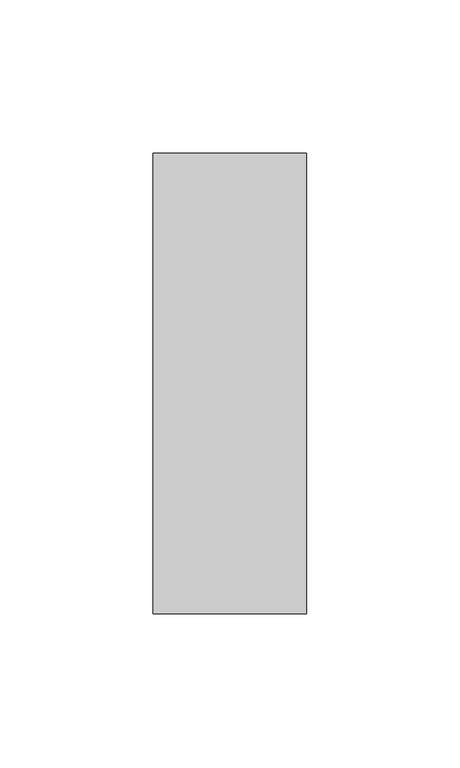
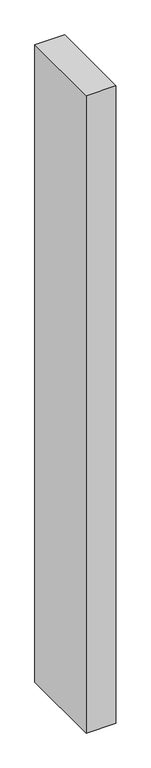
"""IFC4 building model written with IfcOpenShell, lengths in millimetres: member geometry, Прямоугольный импост : 50 x 150 мм."""

from ifc_helpers import new_model, si_unit, frame, origin, place, context, project, spatial, polyline, outline, extrude, source, transform, mapped, element, save


def member_69ce679c(model_context):
    return source(origin(), model_context, "Body", "SweptSolid", [
        extrude(outline(polyline([(25.0, 75.0), (25.0, -75.0), (-25.0, -75.0), (-25.0, 75.0), (25.0, 75.0)])), frame((0.0, 0.0, -1135.4166536), z_axis=(0.0, 0.0, 1.0), x_axis=(1.0, 0.0, 0.0)), (0.0, 0.0, 1.0), 1135.4166536),
    ])


if __name__ == "__main__":
    model = new_model("IFC4")
    model_context = context("Model", 3, world=origin())
    ifc_project = project(units=[si_unit("LENGTHUNIT", "METRE", prefix="MILLI")], contexts=[model_context])
    site = spatial("IfcSite", under=ifc_project)
    building = spatial("IfcBuilding", under=site)
    placement = place(None, origin())
    member_shape = member_69ce679c(model_context)
    element("IfcMember", 1, ObjectType="Прямоугольный импост : 50 x 150 мм", at=placement, inside=building, context=model_context, shape_type="MappedRepresentation", body=[
        mapped(member_shape, transform((0.0, 0.0, 0.0), x_axis=(1.0, 0.0, 0.0), y_axis=(0.0, 1.0, 0.0), z_axis=(0.0, 0.0, 1.0))),
    ])
    save(model, "model.ifc")
